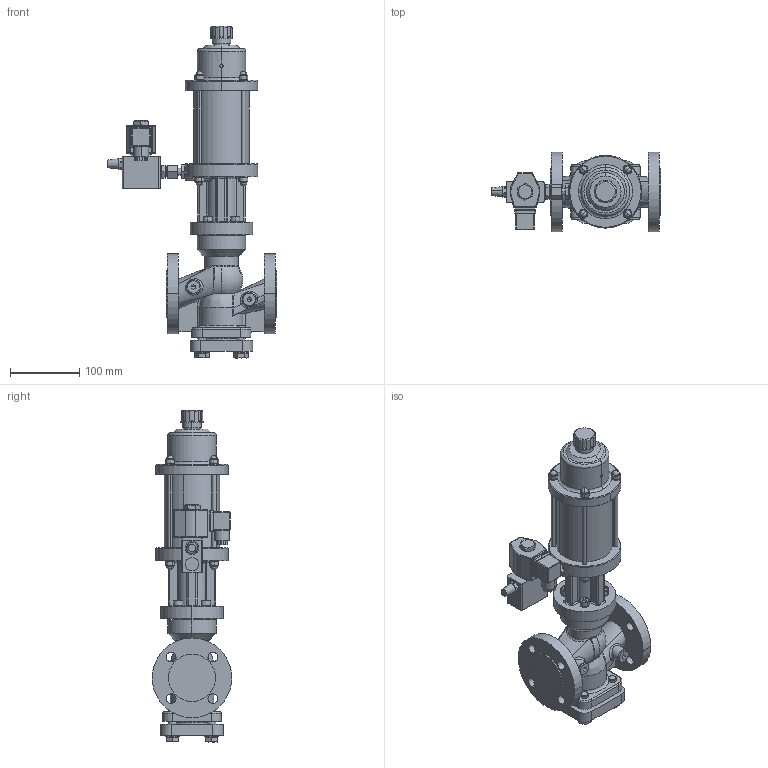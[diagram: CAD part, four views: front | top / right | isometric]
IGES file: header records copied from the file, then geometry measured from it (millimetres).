
Global section: file name: No Iges File Name specified; native system: AutoDesk Inventor R12.0; preprocessor: AutoDesk Inventor Iges Exporter R12.0; date: 20100128.130046; units: millimetre
Bounding box: 244.99 x 115 x 479.15 mm (x, y, z)
Volume: 2619098.9 mm3; surface area: 283233.2 mm2
Topology: 1 solids, 1 shells, 1132 faces, 3034 edges, 1870 vertices
Faces by surface type: plane 458, cylinder 263, bspline 146, cone 116, revolution 86, sphere 33, torus 30
